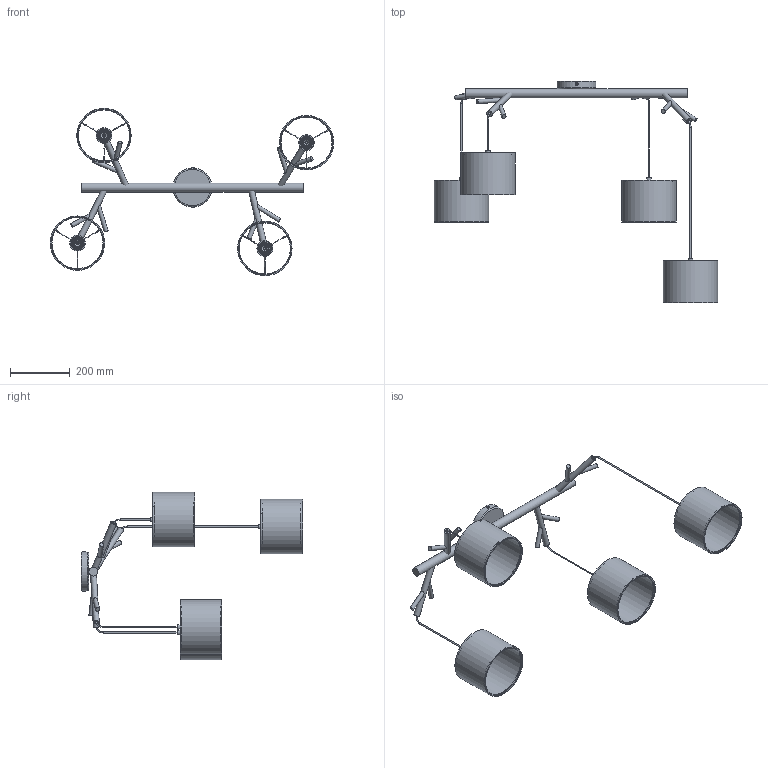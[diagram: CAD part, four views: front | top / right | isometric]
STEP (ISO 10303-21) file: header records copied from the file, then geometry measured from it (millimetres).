
FILE_DESCRIPTION(/* description */ (''),/* implementation_level */ '2;1');
FILE_NAME(/* name */ 'C:/Users/kubaw/OneDrive/Pulpit/Nowy folder (3)/6557_ALBERO WHITE v5.step',/* time_stamp */ '2021-12-11T09:45:06+01:00',/* author */ (''),/* organization */ (''),/* preprocessor_version */ 'ST-DEVELOPER v18.1',/* originating_system */ 'Autodesk Translation Framework v10.10.0.1391',/* authorisation */ '');
FILE_SCHEMA (('AUTOMOTIVE_DESIGN { 1 0 10303 214 3 1 1 }'));
Length unit declared in the file: millimetre
Products named in the file (3): 6557_ALBERO WHITE; MOCOWANIE_ALBERO v7; ŚRUBA_ALBERO
Assembly tree (6 placements, depth 2):
  6557_ALBERO WHITE
    MOCOWANIE_ALBERO v7  x4
    ŚRUBA_ALBERO  x2
Bounding box: 948.12 x 740.15 x 559.8 mm (x, y, z)
Volume: 2330863.2 mm3; surface area: 998711.2 mm2
Topology: 78 solids, 78 shells, 471 faces, 877 edges, 594 vertices
Faces by surface type: cylinder 212, plane 192, torus 37, bspline 30
Full cylindrical faces by diameter (mm): 2.8 x36, 4 x8, 7.952 x4, 9.6 x2, 9.8 x4, 10.752 x4, 14 x8, 15.12 x4, 19.6 x4, 27.776 x4, 30 x1, 34.901 x40, 37.632 x4, 40.32 x12, 44.8 x4, 46.2 x4, 46.368 x4, 53.2 x4, 130 x1, 170.8 x8, 176.4 x12, 182 x4
Entity records: 13224 total; most frequent: CARTESIAN_POINT 7557, DIRECTION 1253, ORIENTED_EDGE 980, AXIS2_PLACEMENT_3D 562, EDGE_CURVE 490, VERTEX_POINT 330, EDGE_LOOP 314, CIRCLE 285
